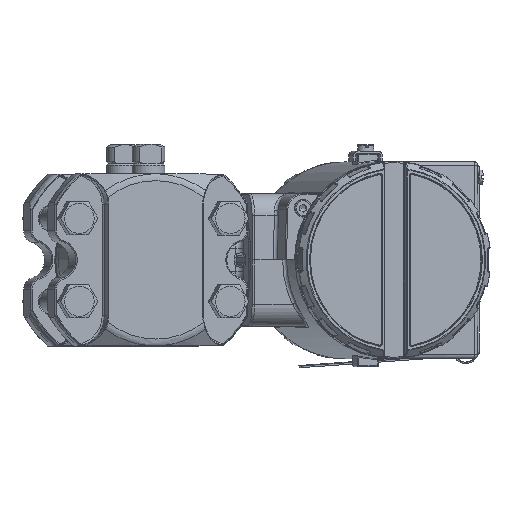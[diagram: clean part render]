
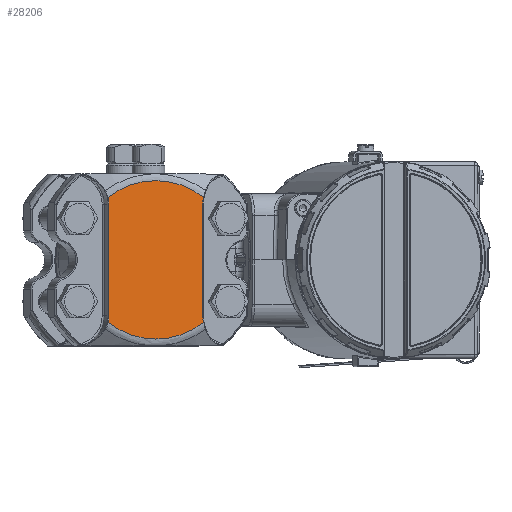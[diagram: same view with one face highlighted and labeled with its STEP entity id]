
A CAD part, top view. The second image highlights one B-rep face of the part: STEP entity #28206.
In plain terms, the highlighted planar face has unit normal (0.201, 0, 0.98) as drawn and (0, 0, 1) by its records, which use the part's own axes.
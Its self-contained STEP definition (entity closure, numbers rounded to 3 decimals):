
#1883=PLANE('',#30888);
#2463=FACE_OUTER_BOUND('',#4392,.T.);
#4392=EDGE_LOOP('',(#20036,#20037,#20038,#20039,#20040,#20041,#20042,#20043));
#6136=LINE('',#45391,#7165);
#6146=LINE('',#45768,#7175);
#7165=VECTOR('',#34788,10.);
#7175=VECTOR('',#34884,10.);
#8361=CIRCLE('',#30614,13.3);
#8365=CIRCLE('',#30620,13.3);
#8392=CIRCLE('',#30657,13.3);
#8396=CIRCLE('',#30663,13.3);
#8520=CIRCLE('',#30886,33.424);
#8522=CIRCLE('',#30889,33.424);
#11719=VERTEX_POINT('',#45371);
#11721=VERTEX_POINT('',#45383);
#11723=VERTEX_POINT('',#45389);
#11725=VERTEX_POINT('',#45395);
#11759=VERTEX_POINT('',#45748);
#11761=VERTEX_POINT('',#45760);
#11763=VERTEX_POINT('',#45766);
#11765=VERTEX_POINT('',#45772);
#14539=EDGE_CURVE('',#11721,#11719,#8361,.T.);
#14542=EDGE_CURVE('',#11723,#11721,#6136,.T.);
#14545=EDGE_CURVE('',#11725,#11723,#8365,.T.);
#14599=EDGE_CURVE('',#11761,#11759,#8392,.T.);
#14602=EDGE_CURVE('',#11763,#11761,#6146,.T.);
#14605=EDGE_CURVE('',#11765,#11763,#8396,.T.);
#14849=EDGE_CURVE('',#11765,#11719,#8520,.T.);
#14851=EDGE_CURVE('',#11725,#11759,#8522,.T.);
#20036=ORIENTED_EDGE('',*,*,#14545,.F.);
#20037=ORIENTED_EDGE('',*,*,#14851,.T.);
#20038=ORIENTED_EDGE('',*,*,#14599,.F.);
#20039=ORIENTED_EDGE('',*,*,#14602,.F.);
#20040=ORIENTED_EDGE('',*,*,#14605,.F.);
#20041=ORIENTED_EDGE('',*,*,#14849,.T.);
#20042=ORIENTED_EDGE('',*,*,#14539,.F.);
#20043=ORIENTED_EDGE('',*,*,#14542,.F.);
#28206=ADVANCED_FACE('',(#2463),#1883,.T.);
#30614=AXIS2_PLACEMENT_3D('',#45385,#34780,#34781);
#30620=AXIS2_PLACEMENT_3D('',#45397,#34794,#34795);
#30657=AXIS2_PLACEMENT_3D('',#45762,#34876,#34877);
#30663=AXIS2_PLACEMENT_3D('',#45774,#34890,#34891);
#30886=AXIS2_PLACEMENT_3D('',#46658,#35417,#35418);
#30888=AXIS2_PLACEMENT_3D('',#46660,#35421,#35422);
#30889=AXIS2_PLACEMENT_3D('',#46661,#35423,#35424);
#34780=DIRECTION('center_axis',(0.,0.,1.));
#34781=DIRECTION('ref_axis',(-0.104,0.995,0.));
#34788=DIRECTION('',(-1.,0.,0.));
#34794=DIRECTION('center_axis',(0.,0.,1.));
#34795=DIRECTION('ref_axis',(0.104,0.995,0.));
#34876=DIRECTION('center_axis',(0.,0.,1.));
#34877=DIRECTION('ref_axis',(0.104,-0.995,0.));
#34884=DIRECTION('',(1.,0.,0.));
#34890=DIRECTION('center_axis',(0.,0.,1.));
#34891=DIRECTION('ref_axis',(-0.104,-0.995,0.));
#35417=DIRECTION('center_axis',(0.,0.,1.));
#35418=DIRECTION('ref_axis',(1.,0.,0.));
#35421=DIRECTION('center_axis',(0.,0.,1.));
#35422=DIRECTION('ref_axis',(1.,0.,0.));
#35423=DIRECTION('center_axis',(0.,0.,1.));
#35424=DIRECTION('ref_axis',(1.,0.,0.));
#45371=CARTESIAN_POINT('',(-26.385,-20.517,31.5));
#45383=CARTESIAN_POINT('',(-23.5,-20.2,31.5));
#45385=CARTESIAN_POINT('Origin',(-23.5,-33.5,31.5));
#45389=CARTESIAN_POINT('',(23.5,-20.2,31.5));
#45391=CARTESIAN_POINT('',(-11.75,-20.2,31.5));
#45395=CARTESIAN_POINT('',(26.385,-20.517,31.5));
#45397=CARTESIAN_POINT('Origin',(23.5,-33.5,31.5));
#45748=CARTESIAN_POINT('',(26.385,20.517,31.5));
#45760=CARTESIAN_POINT('',(23.5,20.2,31.5));
#45762=CARTESIAN_POINT('Origin',(23.5,33.5,31.5));
#45766=CARTESIAN_POINT('',(-23.5,20.2,31.5));
#45768=CARTESIAN_POINT('',(11.75,20.2,31.5));
#45772=CARTESIAN_POINT('',(-26.385,20.517,31.5));
#45774=CARTESIAN_POINT('Origin',(-23.5,33.5,31.5));
#46658=CARTESIAN_POINT('Origin',(0.,0.,31.5));
#46660=CARTESIAN_POINT('Origin',(0.,0.,
31.5));
#46661=CARTESIAN_POINT('Origin',(0.,0.,31.5));
